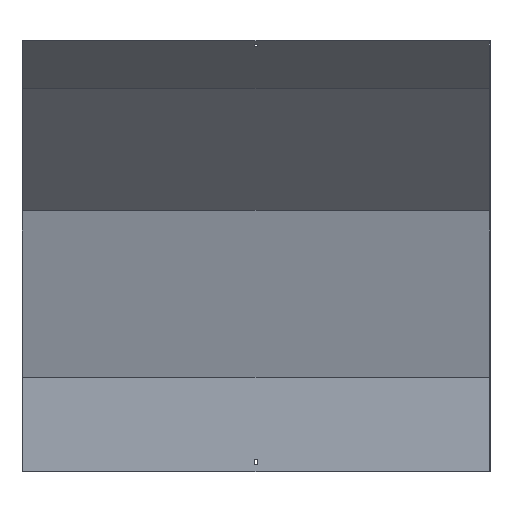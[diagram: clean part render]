
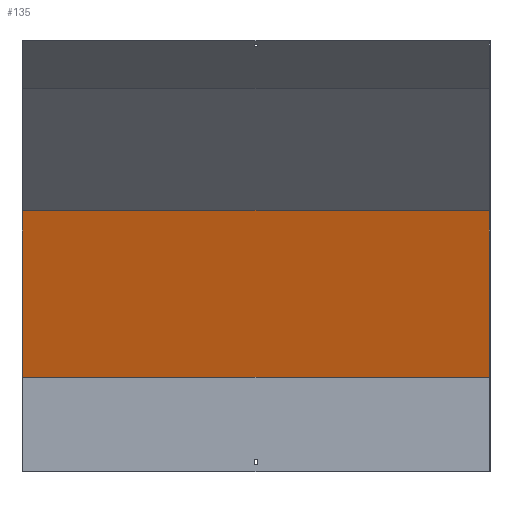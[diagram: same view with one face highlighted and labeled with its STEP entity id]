
A CAD part, front view. The second image highlights one B-rep face of the part: STEP entity #135.
In plain terms, the highlighted planar face has unit normal (0, -0.966, -0.259).
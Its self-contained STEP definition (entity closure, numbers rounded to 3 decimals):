
#6 = CARTESIAN_POINT ( 'NONE',  ( -400., -58.212, 448.729 ) ) ;
#63 = VERTEX_POINT ( 'NONE', #6 ) ;
#128 = CARTESIAN_POINT ( 'NONE',  ( -400., 57.87, 15.506 ) ) ;
#134 = LINE ( 'NONE', #500, #801 ) ;
#135 = ADVANCED_FACE ( 'NONE', ( #211 ), #222, .T. ) ;
#153 = DIRECTION ( 'NONE',  ( -1., 0., 0. ) ) ;
#188 = VERTEX_POINT ( 'NONE', #395 ) ;
#189 = DIRECTION ( 'NONE',  ( -1., 0., 0. ) ) ;
#207 = LINE ( 'NONE', #128, #985 ) ;
#211 = FACE_OUTER_BOUND ( 'NONE', #922, .T. ) ;
#222 = PLANE ( 'NONE',  #753 ) ;
#273 = EDGE_CURVE ( 'NONE', #188, #63, #134, .T. ) ;
#284 = DIRECTION ( 'NONE',  ( 0., -0.966, -0.259 ) ) ;
#291 = LINE ( 'NONE', #986, #495 ) ;
#329 = VERTEX_POINT ( 'NONE', #912 ) ;
#364 = CARTESIAN_POINT ( 'NONE',  ( 401.5, 18.5, 162.436 ) ) ;
#395 = CARTESIAN_POINT ( 'NONE',  ( 400., -58.212, 448.729 ) ) ;
#448 = LINE ( 'NONE', #364, #591 ) ;
#460 = CARTESIAN_POINT ( 'NONE',  ( -400., 18.5, 162.436 ) ) ;
#495 = VECTOR ( 'NONE', #766, 1000. ) ;
#500 = CARTESIAN_POINT ( 'NONE',  ( 401.5, -58.212, 448.729 ) ) ;
#510 = DIRECTION ( 'NONE',  ( 0., -0.259, 0.966 ) ) ;
#567 = ORIENTED_EDGE ( 'NONE', *, *, #273, .T. ) ;
#591 = VECTOR ( 'NONE', #153, 1000. ) ;
#653 = VERTEX_POINT ( 'NONE', #460 ) ;
#714 = ORIENTED_EDGE ( 'NONE', *, *, #747, .T. ) ;
#735 = EDGE_CURVE ( 'NONE', #329, #653, #448, .T. ) ;
#747 = EDGE_CURVE ( 'NONE', #329, #188, #291, .T. ) ;
#753 = AXIS2_PLACEMENT_3D ( 'NONE', #966, #284, #758 ) ;
#758 = DIRECTION ( 'NONE',  ( 0., 0.259, -0.966 ) ) ;
#766 = DIRECTION ( 'NONE',  ( 0., -0.259, 0.966 ) ) ;
#801 = VECTOR ( 'NONE', #189, 1000. ) ;
#809 = ORIENTED_EDGE ( 'NONE', *, *, #735, .F. ) ;
#889 = ORIENTED_EDGE ( 'NONE', *, *, #942, .F. ) ;
#912 = CARTESIAN_POINT ( 'NONE',  ( 400., 18.5, 162.436 ) ) ;
#922 = EDGE_LOOP ( 'NONE', ( #889, #809, #714, #567 ) ) ;
#942 = EDGE_CURVE ( 'NONE', #653, #63, #207, .T. ) ;
#966 = CARTESIAN_POINT ( 'NONE',  ( 401.5, 17.87, 164.788 ) ) ;
#985 = VECTOR ( 'NONE', #510, 1000. ) ;
#986 = CARTESIAN_POINT ( 'NONE',  ( 400., 57.87, 15.506 ) ) ;
